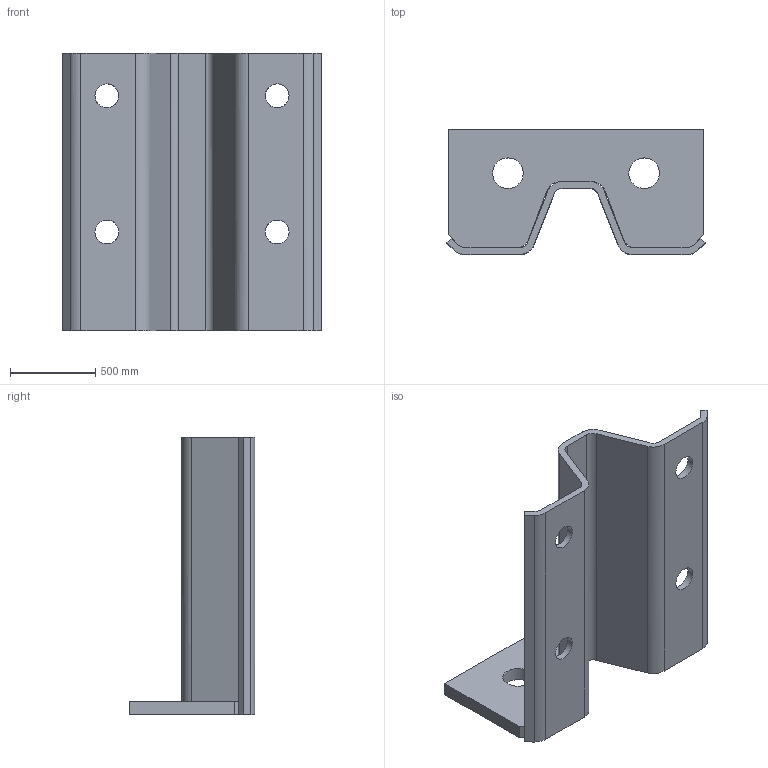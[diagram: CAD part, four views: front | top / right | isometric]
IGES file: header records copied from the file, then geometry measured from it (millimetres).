
Global section: file name: ZB185W80; native system: Autodesk RealDWG; preprocessor: Autodesk Translation Framework DWG producer (atf_dwg_producer); organization: unknown; date: 20241104.112417; units: centimetre
Bounding box: 1517.2 x 740 x 1630 mm (x, y, z)
Volume: 194475114.8 mm3; surface area: 8925519.8 mm2
Topology: 2 solids, 2 shells, 54 faces, 158 edges, 108 vertices
Faces by surface type: bspline 54
